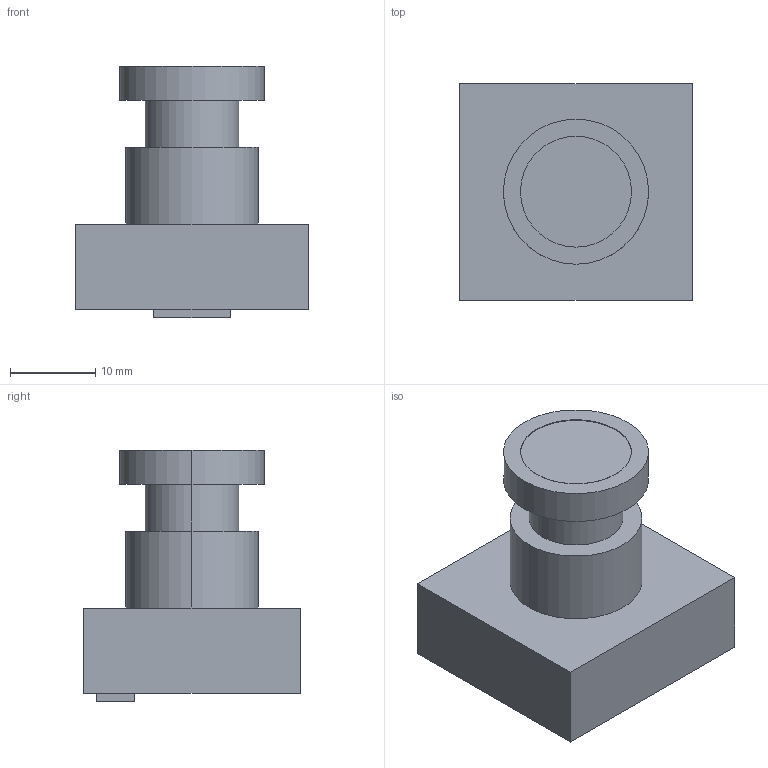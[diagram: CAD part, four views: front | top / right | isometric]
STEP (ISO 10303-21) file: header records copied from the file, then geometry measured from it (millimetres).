
FILE_DESCRIPTION (( 'STEP AP214' ), '1' );
FILE_NAME ('Cam.STEP', '2026-02-22T20:12:17', ( '' ), ( '' ), 'SwSTEP 2.0', 'SolidWorks 2024', '' );
FILE_SCHEMA (( 'AUTOMOTIVE_DESIGN' ));
Length unit declared in the file: millimetre
Products named in the file (1): Cam
Bounding box: 27.2 x 25.4 x 29.5 mm (x, y, z)
Volume: 10047.2 mm3; surface area: 3617.8 mm2
Topology: 1 solids, 1 shells, 29 faces, 60 edges, 40 vertices
Faces by surface type: plane 17, cylinder 12
Entity records: 801 total; most frequent: DIRECTION 144, CARTESIAN_POINT 130, ORIENTED_EDGE 120, EDGE_CURVE 60, AXIS2_PLACEMENT_3D 54, VERTEX_POINT 40, VECTOR 36, EDGE_LOOP 36
